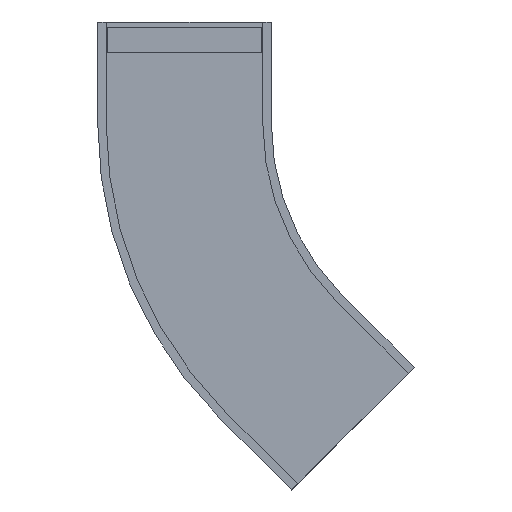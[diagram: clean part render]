
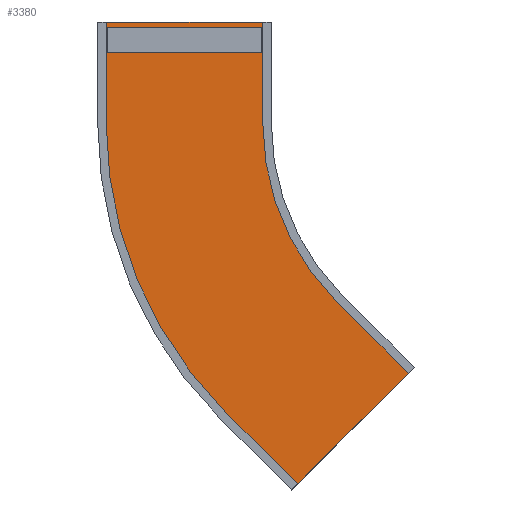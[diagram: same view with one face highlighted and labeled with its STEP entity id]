
A CAD part, front view. The second image highlights one B-rep face of the part: STEP entity #3380.
In plain terms, the highlighted planar face has unit normal (0, -1, 0).
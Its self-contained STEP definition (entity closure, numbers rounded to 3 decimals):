
#310 = LINE ( 'NONE', #2074, #311 ) ;
#311 = VECTOR ( 'NONE', #2075, 1000. ) ;
#322 = LINE ( 'NONE', #2086, #323 ) ;
#323 = VECTOR ( 'NONE', #2087, 1000. ) ;
#611 = AXIS2_PLACEMENT_3D ( 'NONE', #3003, #3004, #3005 ) ;
#614 = AXIS2_PLACEMENT_3D ( 'NONE', #3014, #3015, #3016 ) ;
#1118 = PLANE ( 'NONE',  #3269 ) ;
#1119 = CARTESIAN_POINT ( 'NONE',  ( 168.5, -57.525, -200. ) ) ;
#1120 = DIRECTION ( 'NONE',  ( 0., -1., 0. ) ) ;
#1121 = DIRECTION ( 'NONE',  ( 1., 0., 0. ) ) ;
#1357 = CARTESIAN_POINT ( 'NONE',  ( 309.528, -57.525, -540.472 ) ) ;
#1439 = CARTESIAN_POINT ( 'NONE',  ( -168.5, -57.525, -200. ) ) ;
#1462 = CARTESIAN_POINT ( 'NONE',  ( 212.654, -57.525, -920.188 ) ) ;
#1483 = CARTESIAN_POINT ( 'NONE',  ( 71.233, -57.525, -778.767 ) ) ;
#1491 = CARTESIAN_POINT ( 'NONE',  ( 168.5, -57.525, -200. ) ) ;
#1521 = CARTESIAN_POINT ( 'NONE',  ( -168.5, -57.525, 0. ) ) ;
#1522 = CARTESIAN_POINT ( 'NONE',  ( 168.5, -57.525, 0. ) ) ;
#2074 = CARTESIAN_POINT ( 'NONE',  ( 71.233, -57.525, -778.767 ) ) ;
#2075 = DIRECTION ( 'NONE',  ( 0.707, 0., -0.707 ) ) ;
#2086 = CARTESIAN_POINT ( 'NONE',  ( 309.528, -57.525, -540.472 ) ) ;
#2087 = DIRECTION ( 'NONE',  ( 0.707, 0., -0.707 ) ) ;
#2381 = VERTEX_POINT ( 'NONE', #2727 ) ;
#2395 = VERTEX_POINT ( 'NONE', #1357 ) ;
#2477 = VERTEX_POINT ( 'NONE', #1439 ) ;
#2500 = VERTEX_POINT ( 'NONE', #1462 ) ;
#2521 = VERTEX_POINT ( 'NONE', #1483 ) ;
#2529 = VERTEX_POINT ( 'NONE', #1491 ) ;
#2559 = VERTEX_POINT ( 'NONE', #1521 ) ;
#2560 = VERTEX_POINT ( 'NONE', #1522 ) ;
#2727 = CARTESIAN_POINT ( 'NONE',  ( 450.949, -57.525, -681.893 ) ) ;
#2774 = CARTESIAN_POINT ( 'NONE',  ( 168.5, -57.525, -200. ) ) ;
#2775 = DIRECTION ( 'NONE',  ( 0., 0., 1. ) ) ;
#2776 = CARTESIAN_POINT ( 'NONE',  ( 168.5, -57.525, 0. ) ) ;
#2777 = DIRECTION ( 'NONE',  ( 1., 0., 0. ) ) ;
#2778 = CARTESIAN_POINT ( 'NONE',  ( -168.5, -57.525, -200. ) ) ;
#2779 = DIRECTION ( 'NONE',  ( 0., 0., 1. ) ) ;
#2780 = CARTESIAN_POINT ( 'NONE',  ( 450.949, -57.525, -681.893 ) ) ;
#2781 = DIRECTION ( 'NONE',  ( 0.707, 0., 0.707 ) ) ;
#3003 = CARTESIAN_POINT ( 'NONE',  ( 650., -57.525, -200. ) ) ;
#3004 = DIRECTION ( 'NONE',  ( 0., -1., 0. ) ) ;
#3005 = DIRECTION ( 'NONE',  ( 0., 0., -1. ) ) ;
#3014 = CARTESIAN_POINT ( 'NONE',  ( 650., -57.525, -200. ) ) ;
#3015 = DIRECTION ( 'NONE',  ( 0., -1., 0. ) ) ;
#3016 = DIRECTION ( 'NONE',  ( 0., 0., -1. ) ) ;
#3269 = AXIS2_PLACEMENT_3D ( 'NONE', #1119, #1120, #1121 ) ;
#3380 = ADVANCED_FACE ( 'NONE', ( #4145 ), #1118, .T. ) ;
#4145 = FACE_OUTER_BOUND ( 'NONE', #4663, .T. ) ;
#4529 = ORIENTED_EDGE ( 'NONE', *, *, #5546, .F. ) ;
#4530 = ORIENTED_EDGE ( 'NONE', *, *, #5547, .F. ) ;
#4531 = ORIENTED_EDGE ( 'NONE', *, *, #5633, .T. ) ;
#4532 = ORIENTED_EDGE ( 'NONE', *, *, #5422, .T. ) ;
#4533 = ORIENTED_EDGE ( 'NONE', *, *, #5548, .T. ) ;
#4534 = ORIENTED_EDGE ( 'NONE', *, *, #5428, .F. ) ;
#4535 = ORIENTED_EDGE ( 'NONE', *, *, #5637, .F. ) ;
#4536 = ORIENTED_EDGE ( 'NONE', *, *, #5545, .T. ) ;
#4663 = EDGE_LOOP ( 'NONE', ( #4529, #4530, #4531, #4532, #4533, #4534, #4535, #4536 ) ) ;
#5077 = LINE ( 'NONE', #2774, #5078 ) ;
#5078 = VECTOR ( 'NONE', #2775, 1000. ) ;
#5079 = LINE ( 'NONE', #2776, #5080 ) ;
#5080 = VECTOR ( 'NONE', #2777, 1000. ) ;
#5081 = LINE ( 'NONE', #2778, #5082 ) ;
#5082 = VECTOR ( 'NONE', #2779, 1000. ) ;
#5083 = LINE ( 'NONE', #2780, #5084 ) ;
#5084 = VECTOR ( 'NONE', #2781, 1000. ) ;
#5200 = CIRCLE ( 'NONE', #611, 818.5 ) ;
#5205 = CIRCLE ( 'NONE', #614, 481.5 ) ;
#5422 = EDGE_CURVE ( 'NONE', #2521, #2500, #310, .T. ) ;
#5428 = EDGE_CURVE ( 'NONE', #2395, #2381, #322, .T. ) ;
#5545 = EDGE_CURVE ( 'NONE', #2529, #2560, #5077, .T. ) ;
#5546 = EDGE_CURVE ( 'NONE', #2559, #2560, #5079, .T. ) ;
#5547 = EDGE_CURVE ( 'NONE', #2477, #2559, #5081, .T. ) ;
#5548 = EDGE_CURVE ( 'NONE', #2500, #2381, #5083, .T. ) ;
#5633 = EDGE_CURVE ( 'NONE', #2477, #2521, #5200, .T. ) ;
#5637 = EDGE_CURVE ( 'NONE', #2529, #2395, #5205, .T. ) ;
